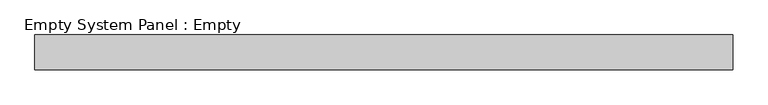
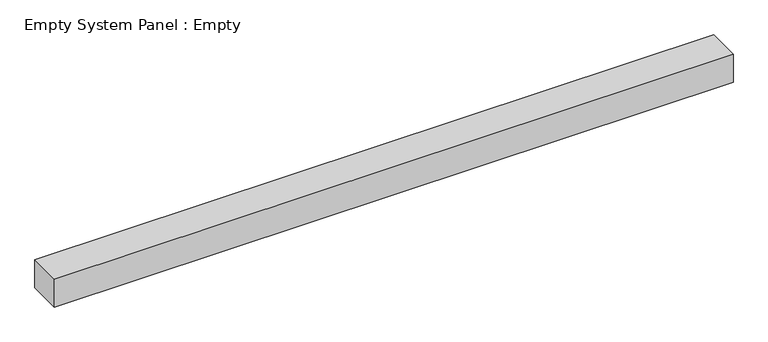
"""IFC4 building model written with IfcOpenShell, lengths in millimetres: plate geometry, Empty System Panel : Empty."""

from ifc_helpers import new_model, si_unit, origin, origin_with_axes, place, context, project, spatial, polyline, outline, extrude, source, transform, mapped, element, save


def empty_system_panel_empty_de6cefbe(model_context):
    return source(origin(), model_context, "Body", "SweptSolid", [
        extrude(outline(polyline([(1000.0, -50.0), (-1000.0, -50.0), (-1000.0, 50.0), (1000.0, 50.0), (1000.0, -50.0)])), origin_with_axes(), (0.0, 0.0, 1.0), 87.0),
    ])


if __name__ == "__main__":
    model = new_model("IFC4")
    model_context = context("Model", 3, world=origin())
    ifc_project = project(units=[si_unit("LENGTHUNIT", "METRE", prefix="MILLI")], contexts=[model_context])
    site = spatial("IfcSite", under=ifc_project)
    building = spatial("IfcBuilding", under=site)
    placement = place(None, origin())
    empty_system_panel_empty_shape = empty_system_panel_empty_de6cefbe(model_context)
    element("IfcPlate", 1, ObjectType="Empty System Panel : Empty", at=placement, inside=building, context=model_context, shape_type="MappedRepresentation", body=[
        mapped(empty_system_panel_empty_shape, transform((0.0, 0.0, 0.0), x_axis=(1.0, 0.0, 0.0), y_axis=(0.0, 1.0, 0.0), z_axis=(0.0, 0.0, 1.0))),
    ])
    save(model, "model.ifc")
